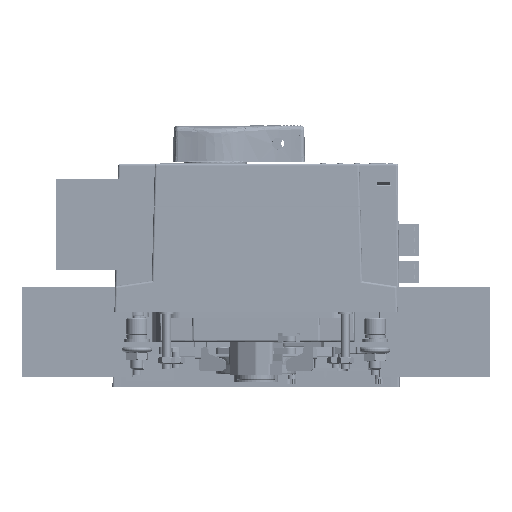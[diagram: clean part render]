
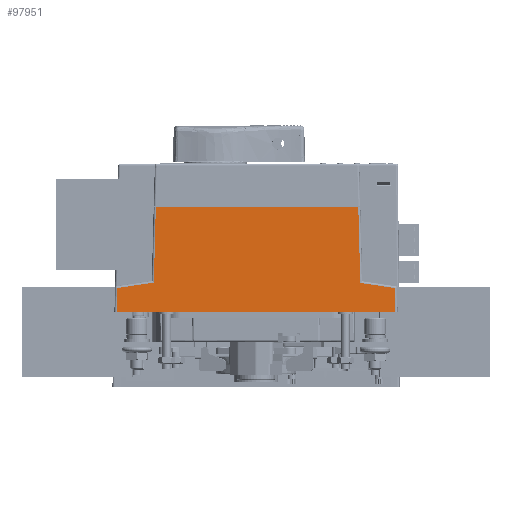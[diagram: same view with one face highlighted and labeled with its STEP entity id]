
A CAD part, left-side view. The second image highlights one B-rep face of the part: STEP entity #97951.
In plain terms, the highlighted planar face has unit normal (-1, 0, 0.018).
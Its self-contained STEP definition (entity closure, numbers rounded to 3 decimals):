
#41878 = ORIENTED_EDGE ( 'NONE', *, *, #407785, .F. ) ;
#47424 = DIRECTION ( 'NONE',  ( 0.003, -0.989, 0.148 ) ) ;
#87921 = VERTEX_POINT ( 'NONE', #113339 ) ;
#97951 = ADVANCED_FACE ( 'NONE', ( #892435 ), #726994, .F. ) ;
#113339 = CARTESIAN_POINT ( 'NONE',  ( -188.525, 47.089, 84.5 ) ) ;
#119382 = CARTESIAN_POINT ( 'NONE',  ( -189.186, 62.778, 46.652 ) ) ;
#149579 = VERTEX_POINT ( 'NONE', #706605 ) ;
#187523 = CARTESIAN_POINT ( 'NONE',  ( -188.525, -48.085, 84.5 ) ) ;
#207597 = LINE ( 'NONE', #119382, #754245 ) ;
#219426 = AXIS2_PLACEMENT_3D ( 'NONE', #313054, #649691, #1063481 ) ;
#224151 = ORIENTED_EDGE ( 'NONE', *, *, #608336, .T. ) ;
#238743 = ORIENTED_EDGE ( 'NONE', *, *, #948914, .F. ) ;
#270731 = ORIENTED_EDGE ( 'NONE', *, *, #911617, .T. ) ;
#298813 = EDGE_CURVE ( 'NONE', #916200, #335532, #649671, .T. ) ;
#313054 = CARTESIAN_POINT ( 'NONE',  ( -188.15, -65., 106.003 ) ) ;
#318294 = DIRECTION ( 'NONE',  ( -0.017, 0.026, -1. ) ) ;
#318480 = CARTESIAN_POINT ( 'NONE',  ( -188.525, -48.085, 84.5 ) ) ;
#319060 = ORIENTED_EDGE ( 'NONE', *, *, #298813, .F. ) ;
#321704 = DIRECTION ( 'NONE',  ( 0.017, -0.026, 1. ) ) ;
#329175 = CARTESIAN_POINT ( 'NONE',  ( -188.091, 63.636, 109.371 ) ) ;
#335532 = VERTEX_POINT ( 'NONE', #905786 ) ;
#342156 = EDGE_LOOP ( 'NONE', ( #238743, #224151, #41878, #270731, #858753, #319060, #472975, #847243 ) ) ;
#352010 = LINE ( 'NONE', #947513, #778038 ) ;
#407785 = EDGE_CURVE ( 'NONE', #149579, #1001239, #896500, .T. ) ;
#444699 = VERTEX_POINT ( 'NONE', #797598 ) ;
#469063 = VECTOR ( 'NONE', #318294, 1000. ) ;
#472975 = ORIENTED_EDGE ( 'NONE', *, *, #694151, .F. ) ;
#498705 = DIRECTION ( 'NONE',  ( 0.017, 0.026, 1. ) ) ;
#506624 = DIRECTION ( 'NONE',  ( -0.003, -0.989, -0.148 ) ) ;
#608336 = EDGE_CURVE ( 'NONE', #1029394, #1001239, #908462, .T. ) ;
#649671 = LINE ( 'NONE', #318480, #889752 ) ;
#649691 = DIRECTION ( 'NONE',  ( 1., 0., -0.017 ) ) ;
#655264 = VECTOR ( 'NONE', #1083866, 1000. ) ;
#667240 = CARTESIAN_POINT ( 'NONE',  ( -188.525, 89.402, 84.5 ) ) ;
#680787 = EDGE_CURVE ( 'NONE', #335532, #444699, #352010, .T. ) ;
#694151 = EDGE_CURVE ( 'NONE', #87921, #916200, #760861, .T. ) ;
#706605 = CARTESIAN_POINT ( 'NONE',  ( -189.389, -65.584, 35. ) ) ;
#708238 = CARTESIAN_POINT ( 'NONE',  ( -189.389, 65.584, 35. ) ) ;
#709472 = VECTOR ( 'NONE', #321704, 1000. ) ;
#720897 = VECTOR ( 'NONE', #498705, 1000. ) ;
#726994 = PLANE ( 'NONE',  #219426 ) ;
#754245 = VECTOR ( 'NONE', #47424, 1000. ) ;
#755679 = VERTEX_POINT ( 'NONE', #941161 ) ;
#756355 = EDGE_CURVE ( 'NONE', #755679, #87921, #829205, .T. ) ;
#760861 = LINE ( 'NONE', #667240, #879830 ) ;
#772043 = CARTESIAN_POINT ( 'NONE',  ( -189.192, 65.288, 46.277 ) ) ;
#778038 = VECTOR ( 'NONE', #506624, 1000. ) ;
#797598 = CARTESIAN_POINT ( 'NONE',  ( -189.192, -65.288, 46.277 ) ) ;
#825944 = DIRECTION ( 'NONE',  ( -0.017, -0.026, -1. ) ) ;
#829205 = LINE ( 'NONE', #989273, #709472 ) ;
#847243 = ORIENTED_EDGE ( 'NONE', *, *, #756355, .F. ) ;
#858753 = ORIENTED_EDGE ( 'NONE', *, *, #680787, .F. ) ;
#879830 = VECTOR ( 'NONE', #931685, 1000. ) ;
#889752 = VECTOR ( 'NONE', #825944, 1000. ) ;
#892435 = FACE_OUTER_BOUND ( 'NONE', #342156, .T. ) ;
#896500 = LINE ( 'NONE', #1072991, #655264 ) ;
#905786 = CARTESIAN_POINT ( 'NONE',  ( -189.15, -49.022, 48.708 ) ) ;
#908462 = LINE ( 'NONE', #329175, #469063 ) ;
#911617 = EDGE_CURVE ( 'NONE', #149579, #444699, #1000667, .T. ) ;
#916200 = VERTEX_POINT ( 'NONE', #187523 ) ;
#931685 = DIRECTION ( 'NONE',  ( 0., -1., 0. ) ) ;
#941161 = CARTESIAN_POINT ( 'NONE',  ( -189.147, 48.022, 48.858 ) ) ;
#947513 = CARTESIAN_POINT ( 'NONE',  ( -189.15, -49.022, 48.708 ) ) ;
#948914 = EDGE_CURVE ( 'NONE', #1029394, #755679, #207597, .T. ) ;
#989273 = CARTESIAN_POINT ( 'NONE',  ( -189.147, 48.022, 48.858 ) ) ;
#1000667 = LINE ( 'NONE', #1011537, #720897 ) ;
#1001239 = VERTEX_POINT ( 'NONE', #708238 ) ;
#1011537 = CARTESIAN_POINT ( 'NONE',  ( -188.15, -63.725, 105.97 ) ) ;
#1029394 = VERTEX_POINT ( 'NONE', #772043 ) ;
#1063481 = DIRECTION ( 'NONE',  ( -0.017, 0., -1. ) ) ;
#1072991 = CARTESIAN_POINT ( 'NONE',  ( -189.389, -65., 35. ) ) ;
#1083866 = DIRECTION ( 'NONE',  ( 0., 1., 0. ) ) ;
